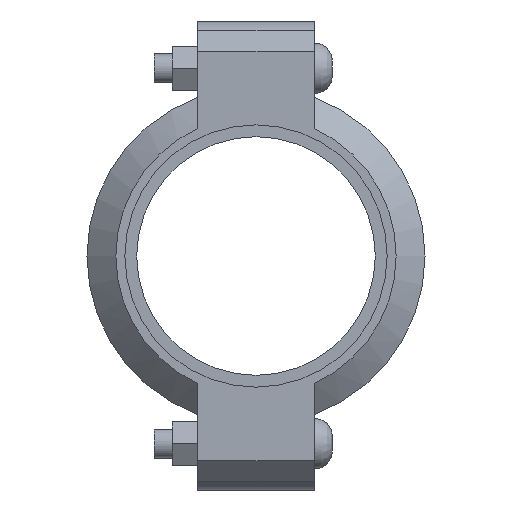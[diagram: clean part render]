
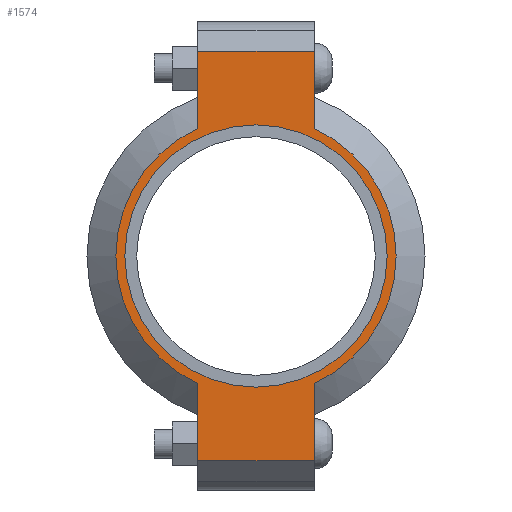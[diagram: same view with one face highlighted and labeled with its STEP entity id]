
A CAD part, left-side view. The second image highlights one B-rep face of the part: STEP entity #1574.
In plain terms, the highlighted planar face has unit normal (-1, 0, 0) as drawn and (0, 0, 1) by its records, which use the part's own axes.
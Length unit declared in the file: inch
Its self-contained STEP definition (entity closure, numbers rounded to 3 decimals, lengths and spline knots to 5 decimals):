
#198=LINE('',#2738,#291);
#206=LINE('',#2774,#299);
#213=LINE('',#2795,#306);
#222=LINE('',#2827,#315);
#223=LINE('',#2831,#316);
#224=LINE('',#2833,#317);
#291=VECTOR('',#2226,0.3937);
#299=VECTOR('',#2242,0.3937);
#306=VECTOR('',#2261,0.3937);
#315=VECTOR('',#2286,0.3937);
#316=VECTOR('',#2291,0.3937);
#317=VECTOR('',#2292,0.3937);
#373=FACE_BOUND('',#551,.T.);
#445=FACE_OUTER_BOUND('',#550,.T.);
#550=EDGE_LOOP('',(#1315,#1316,#1317,#1318,#1319,#1320,#1321,#1322));
#551=EDGE_LOOP('',(#1323));
#623=CIRCLE('',#1784,2.25);
#649=CIRCLE('',#1843,2.405);
#650=CIRCLE('',#1844,2.405);
#715=VERTEX_POINT('',#2554);
#758=VERTEX_POINT('',#2735);
#759=VERTEX_POINT('',#2737);
#770=VERTEX_POINT('',#2769);
#771=VERTEX_POINT('',#2773);
#778=VERTEX_POINT('',#2792);
#779=VERTEX_POINT('',#2794);
#789=VERTEX_POINT('',#2830);
#790=VERTEX_POINT('',#2832);
#871=EDGE_CURVE('',#715,#715,#623,.T.);
#932=EDGE_CURVE('',#759,#758,#198,.T.);
#946=EDGE_CURVE('',#771,#770,#206,.T.);
#956=EDGE_CURVE('',#779,#778,#213,.T.);
#971=EDGE_CURVE('',#771,#758,#222,.T.);
#972=EDGE_CURVE('',#770,#779,#649,.T.);
#973=EDGE_CURVE('',#789,#778,#223,.T.);
#974=EDGE_CURVE('',#789,#790,#224,.T.);
#975=EDGE_CURVE('',#790,#759,#650,.T.);
#1315=ORIENTED_EDGE('',*,*,#971,.F.);
#1316=ORIENTED_EDGE('',*,*,#946,.T.);
#1317=ORIENTED_EDGE('',*,*,#972,.T.);
#1318=ORIENTED_EDGE('',*,*,#956,.T.);
#1319=ORIENTED_EDGE('',*,*,#973,.F.);
#1320=ORIENTED_EDGE('',*,*,#974,.T.);
#1321=ORIENTED_EDGE('',*,*,#975,.T.);
#1322=ORIENTED_EDGE('',*,*,#932,.T.);
#1323=ORIENTED_EDGE('',*,*,#871,.T.);
#1416=PLANE('',#1842);
#1574=ADVANCED_FACE('',(#445,#373),#1416,.T.);
#1784=AXIS2_PLACEMENT_3D('',#2556,#2102,#2103);
#1842=AXIS2_PLACEMENT_3D('',#2828,#2287,#2288);
#1843=AXIS2_PLACEMENT_3D('',#2829,#2289,#2290);
#1844=AXIS2_PLACEMENT_3D('',#2834,#2293,#2294);
#2102=DIRECTION('center_axis',(0.,0.,-1.));
#2103=DIRECTION('ref_axis',(-1.,0.,0.));
#2226=DIRECTION('',(-1.,0.,0.));
#2242=DIRECTION('',(1.,0.,0.));
#2261=DIRECTION('',(1.,0.,0.));
#2286=DIRECTION('',(0.,1.,0.));
#2287=DIRECTION('center_axis',(0.,0.,1.));
#2288=DIRECTION('ref_axis',(1.,0.,0.));
#2289=DIRECTION('center_axis',(0.,0.,1.));
#2290=DIRECTION('ref_axis',(-1.,0.,0.));
#2291=DIRECTION('',(0.,-1.,0.));
#2292=DIRECTION('',(-1.,0.,0.));
#2293=DIRECTION('center_axis',(0.,0.,1.));
#2294=DIRECTION('ref_axis',(-1.,0.,0.));
#2554=CARTESIAN_POINT('',(2.25,0.,1.065));
#2556=CARTESIAN_POINT('Origin',(0.,0.,1.065));
#2735=CARTESIAN_POINT('',(-3.515,1.,1.065));
#2737=CARTESIAN_POINT('',(-2.18724,1.,1.065));
#2738=CARTESIAN_POINT('',(-4.015,1.,1.065));
#2769=CARTESIAN_POINT('',(-2.18724,-1.,1.065));
#2773=CARTESIAN_POINT('',(-3.515,-1.,1.065));
#2774=CARTESIAN_POINT('',(4.015,-1.,1.065));
#2792=CARTESIAN_POINT('',(3.515,-1.,1.065));
#2794=CARTESIAN_POINT('',(2.18724,-1.,1.065));
#2795=CARTESIAN_POINT('',(4.015,-1.,1.065));
#2827=CARTESIAN_POINT('',(-3.515,0.5,1.065));
#2828=CARTESIAN_POINT('Origin',(0.,0.,1.065));
#2829=CARTESIAN_POINT('Origin',(0.,0.,1.065));
#2830=CARTESIAN_POINT('',(3.515,1.,1.065));
#2831=CARTESIAN_POINT('',(3.515,-0.5,1.065));
#2832=CARTESIAN_POINT('',(2.18724,1.,1.065));
#2833=CARTESIAN_POINT('',(-4.015,1.,1.065));
#2834=CARTESIAN_POINT('Origin',(0.,0.,1.065));
